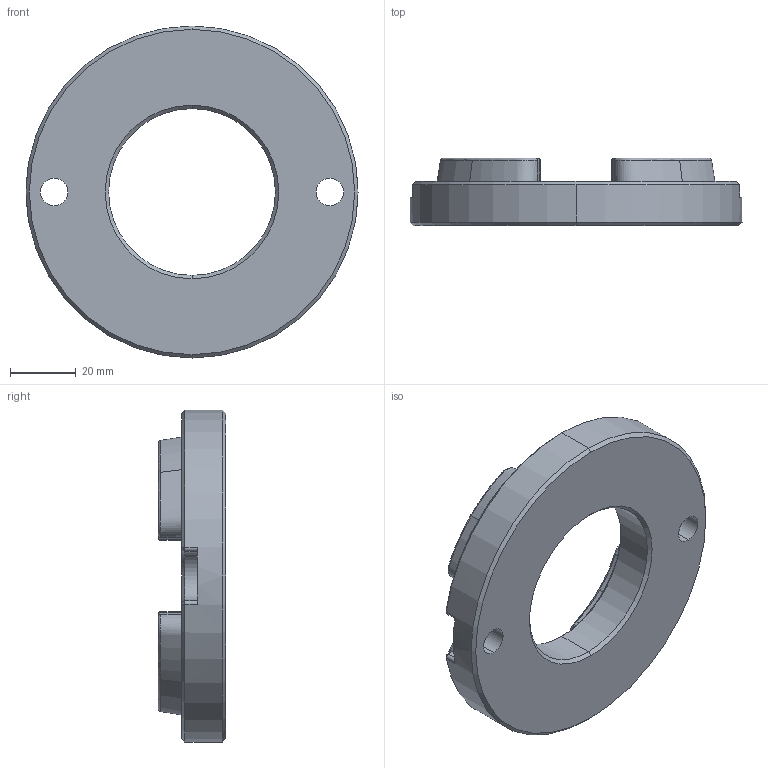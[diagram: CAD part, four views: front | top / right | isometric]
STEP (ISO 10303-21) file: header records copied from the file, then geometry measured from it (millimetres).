
FILE_DESCRIPTION (( 'STEP AP203' ), '1' );
FILE_NAME ('6501PG.STEP', '2020-03-19T16:58:09', ( '' ), ( '' ), 'SwSTEP 2.0', 'SolidWorks 2018', '' );
FILE_SCHEMA (( 'CONFIG_CONTROL_DESIGN' ));
Length unit declared in the file: inch
Products named in the file (1): 6501PG
Bounding box: 101.35 x 20.6 x 101.35 mm (x, y, z)
Volume: 90143.8 mm3; surface area: 20707.1 mm2
Topology: 1 solids, 2 shells, 206 faces, 524 edges, 331 vertices
Faces by surface type: plane 70, bspline 63, cylinder 38, torus 20, cone 15
Entity records: 12122 total; most frequent: CARTESIAN_POINT 7437, ORIENTED_EDGE 1040, DIRECTION 801, EDGE_CURVE 520, VERTEX_POINT 331, AXIS2_PLACEMENT_3D 271, VECTOR 259, LINE 259
